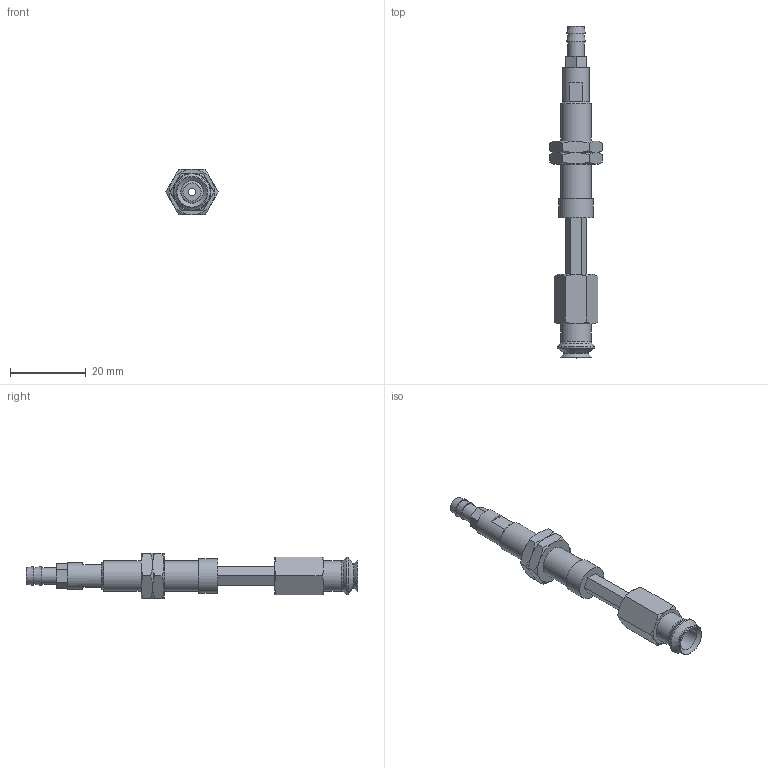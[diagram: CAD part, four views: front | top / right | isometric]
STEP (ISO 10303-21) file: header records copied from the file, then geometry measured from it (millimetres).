
FILE_DESCRIPTION(('STEP AP203'),'1');
FILE_NAME('-T.stp','2025-08-27T06:29:32',(' '),(' '),'Spatial InterOp 3D',' ',' ');
FILE_SCHEMA(('CONFIG_CONTROL_DESIGN'));
Length unit declared in the file: millimetre
Products named in the file (7): BNABPJTH-8-15-※-T; ADAPTER; NAPATH-10A-15--M; NAPJH-8-15-NUT; NAPJTH-8-15-FBODY; BPJG-8-※; T
Assembly tree (7 placements, depth 2):
  BNABPJTH-8-15-※-T
    ADAPTER
    NAPATH-10A-15--M
    NAPJH-8-15-NUT  x2
    NAPJTH-8-15-FBODY
    BPJG-8-※
    T
Bounding box: 13.86 x 87.5 x 12 mm (x, y, z)
Volume: 4064.7 mm3; surface area: 5132.8 mm2
Topology: 7 solids, 7 shells, 138 faces, 295 edges, 180 vertices
Faces by surface type: plane 63, cone 50, cylinder 16, torus 9
Full cylindrical faces by diameter (mm): 2 x2, 3 x1, 4 x2, 4.134 x1, 4.3 x1, 5 x1, 6 x2, 7 x1, 7.188 x2, 8 x2, 9 x1
Entity records: 3402 total; most frequent: CARTESIAN_POINT 759, DIRECTION 480, ORIENTED_EDGE 406, EDGE_CURVE 203, AXIS2_PLACEMENT_3D 202, EDGE_LOOP 172, VERTEX_POINT 145, FACE_OUTER_BOUND 139
